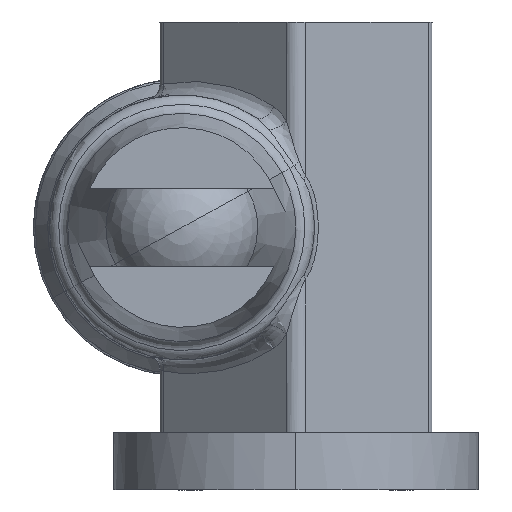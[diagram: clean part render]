
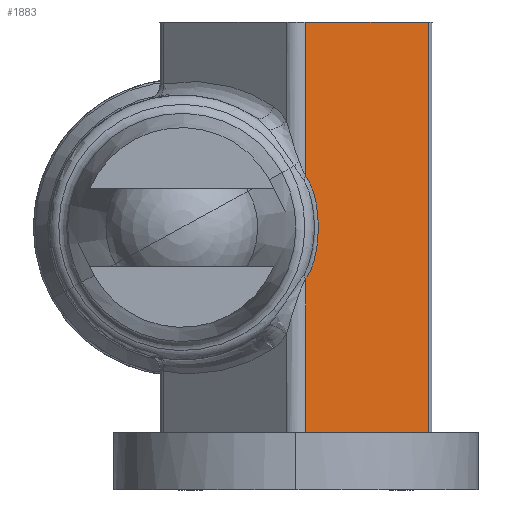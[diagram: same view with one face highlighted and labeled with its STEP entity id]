
A CAD part, left-side view. The second image highlights one B-rep face of the part: STEP entity #1883.
In plain terms, the highlighted planar face has unit normal (-0.707, -0.707, 0).
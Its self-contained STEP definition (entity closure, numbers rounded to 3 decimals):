
#1112=CARTESIAN_POINT('Vertex',(-56.121,-53.991,-45.)) ;
#1115=CARTESIAN_POINT('Line Origine',(-69.556,-40.556,-45.)) ;
#1119=CARTESIAN_POINT('Vertex',(-82.991,-27.121,-45.)) ;
#1749=CARTESIAN_POINT('Line Origine',(-82.991,-27.121,0.)) ;
#1753=CARTESIAN_POINT('Vertex',(-82.991,-27.121,-23.)) ;
#1755=CARTESIAN_POINT('Vertex',(-82.991,-27.121,-11.187)) ;
#1783=CARTESIAN_POINT('Line Origine',(-82.991,-27.121,0.)) ;
#1797=CARTESIAN_POINT('Axis2P3D Location',(-54.,-56.113,0.)) ;
#1803=CARTESIAN_POINT('Control Point',(-82.991,-27.121,11.187)) ;
#1804=CARTESIAN_POINT('Control Point',(-82.829,-27.284,11.001)) ;
#1805=CARTESIAN_POINT('Control Point',(-82.678,-27.435,10.801)) ;
#1806=CARTESIAN_POINT('Control Point',(-82.536,-27.576,10.59)) ;
#1807=CARTESIAN_POINT('Control Point',(-82.247,-27.866,10.113)) ;
#1808=CARTESIAN_POINT('Control Point',(-81.993,-28.12,9.604)) ;
#1809=CARTESIAN_POINT('Control Point',(-81.864,-28.248,9.321)) ;
#1810=CARTESIAN_POINT('Control Point',(-81.593,-28.52,8.669)) ;
#1811=CARTESIAN_POINT('Control Point',(-81.359,-28.754,7.99)) ;
#1812=CARTESIAN_POINT('Control Point',(-81.239,-28.874,7.603)) ;
#1813=CARTESIAN_POINT('Control Point',(-80.997,-29.115,6.746)) ;
#1814=CARTESIAN_POINT('Control Point',(-80.801,-29.312,5.868)) ;
#1815=CARTESIAN_POINT('Control Point',(-80.705,-29.407,5.384)) ;
#1816=CARTESIAN_POINT('Control Point',(-80.423,-29.69,3.735)) ;
#1817=CARTESIAN_POINT('Control Point',(-80.267,-29.846,2.054)) ;
#1818=CARTESIAN_POINT('Control Point',(-80.213,-29.9,0.864)) ;
#1819=CARTESIAN_POINT('Control Point',(-80.214,-29.899,-1.174)) ;
#1820=CARTESIAN_POINT('Control Point',(-80.38,-29.733,-3.198)) ;
#1821=CARTESIAN_POINT('Control Point',(-80.477,-29.635,-4.03)) ;
#1822=CARTESIAN_POINT('Control Point',(-80.666,-29.447,-5.244)) ;
#1823=CARTESIAN_POINT('Control Point',(-80.928,-29.185,-6.431)) ;
#1824=CARTESIAN_POINT('Control Point',(-81.02,-29.093,-6.808)) ;
#1825=CARTESIAN_POINT('Control Point',(-81.211,-28.902,-7.519)) ;
#1826=CARTESIAN_POINT('Control Point',(-81.435,-28.678,-8.213)) ;
#1827=CARTESIAN_POINT('Control Point',(-81.55,-28.562,-8.54)) ;
#1828=CARTESIAN_POINT('Control Point',(-81.783,-28.33,-9.142)) ;
#1829=CARTESIAN_POINT('Control Point',(-82.049,-28.064,-9.719)) ;
#1830=CARTESIAN_POINT('Control Point',(-82.181,-27.931,-9.982)) ;
#1831=CARTESIAN_POINT('Control Point',(-82.411,-27.702,-10.395)) ;
#1832=CARTESIAN_POINT('Control Point',(-82.668,-27.445,-10.779)) ;
#1833=CARTESIAN_POINT('Control Point',(-82.771,-27.342,-10.921)) ;
#1834=CARTESIAN_POINT('Control Point',(-82.878,-27.234,-11.058)) ;
#1835=CARTESIAN_POINT('Control Point',(-82.991,-27.121,-11.187)) ;
#1836=CARTESIAN_POINT('Vertex',(-82.991,-27.121,11.187)) ;
#1839=CARTESIAN_POINT('Line Origine',(-56.121,-53.991,-34.)) ;
#1843=CARTESIAN_POINT('Vertex',(-56.121,-53.991,-23.)) ;
#1846=CARTESIAN_POINT('Line Origine',(-56.121,-53.991,0.)) ;
#1850=CARTESIAN_POINT('Vertex',(-56.121,-53.991,23.)) ;
#1853=CARTESIAN_POINT('Line Origine',(-56.121,-53.991,34.)) ;
#1857=CARTESIAN_POINT('Vertex',(-56.121,-53.991,45.)) ;
#1860=CARTESIAN_POINT('Line Origine',(-69.556,-40.556,45.)) ;
#1864=CARTESIAN_POINT('Vertex',(-82.991,-27.121,45.)) ;
#1867=CARTESIAN_POINT('Line Origine',(-82.991,-27.121,28.093)) ;
#1116=DIRECTION('Vector Direction',(0.707,-0.707,0.)) ;
#1750=DIRECTION('Vector Direction',(0.,0.,1.)) ;
#1784=DIRECTION('Vector Direction',(0.,0.,1.)) ;
#1798=DIRECTION('Axis2P3D Direction',(0.707,0.707,0.)) ;
#1799=DIRECTION('Axis2P3D XDirection',(-0.707,0.707,0.)) ;
#1840=DIRECTION('Vector Direction',(0.,0.,1.)) ;
#1847=DIRECTION('Vector Direction',(0.,0.,1.)) ;
#1854=DIRECTION('Vector Direction',(0.,0.,-1.)) ;
#1861=DIRECTION('Vector Direction',(0.707,-0.707,0.)) ;
#1868=DIRECTION('Vector Direction',(0.,0.,1.)) ;
#1800=AXIS2_PLACEMENT_3D('Plane Axis2P3D',#1797,#1798,#1799) ;
#1873=ORIENTED_EDGE('',*,*,#1838,.T.) ;
#1874=ORIENTED_EDGE('',*,*,#1757,.F.) ;
#1875=ORIENTED_EDGE('',*,*,#1787,.F.) ;
#1876=ORIENTED_EDGE('',*,*,#1121,.F.) ;
#1877=ORIENTED_EDGE('',*,*,#1845,.T.) ;
#1878=ORIENTED_EDGE('',*,*,#1852,.T.) ;
#1879=ORIENTED_EDGE('',*,*,#1859,.F.) ;
#1880=ORIENTED_EDGE('',*,*,#1866,.F.) ;
#1881=ORIENTED_EDGE('',*,*,#1871,.F.) ;
#1117=VECTOR('Line Direction',#1116,1.) ;
#1751=VECTOR('Line Direction',#1750,1.) ;
#1785=VECTOR('Line Direction',#1784,1.) ;
#1841=VECTOR('Line Direction',#1840,1.) ;
#1848=VECTOR('Line Direction',#1847,1.) ;
#1855=VECTOR('Line Direction',#1854,1.) ;
#1862=VECTOR('Line Direction',#1861,1.) ;
#1869=VECTOR('Line Direction',#1868,1.) ;
#1883=ADVANCED_FACE('',(#1882),#1801,.F.) ;
#1802=B_SPLINE_CURVE_WITH_KNOTS('',5,(#1803,#1804,#1805,#1806,#1807,#1808,#1809,#1810,#1811,#1812,#1813,#1814,#1815,#1816,#1817,#1818,#1819,#1820,#1821,#1822,#1823,#1824,#1825,#1826,#1827,#1828,#1829,#1830,#1831,#1832,#1833,#1834,#1835),.UNSPECIFIED.,.F.,.U.,(6,3,3,3,3,3,3,3,3,3,6),(26.335,28.153,30.269,32.955,36.168,43.842,49.271,51.812,54.134,56.17,57.436),.UNSPECIFIED.) ;
#1121=EDGE_CURVE('',#1113,#1120,#1118,.F.) ;
#1757=EDGE_CURVE('',#1754,#1756,#1752,.T.) ;
#1787=EDGE_CURVE('',#1120,#1754,#1786,.T.) ;
#1838=EDGE_CURVE('',#1837,#1756,#1802,.T.) ;
#1845=EDGE_CURVE('',#1113,#1844,#1842,.T.) ;
#1852=EDGE_CURVE('',#1844,#1851,#1849,.T.) ;
#1859=EDGE_CURVE('',#1858,#1851,#1856,.T.) ;
#1866=EDGE_CURVE('',#1865,#1858,#1863,.T.) ;
#1871=EDGE_CURVE('',#1837,#1865,#1870,.T.) ;
#1872=EDGE_LOOP('',(#1873,#1874,#1875,#1876,#1877,#1878,#1879,#1880,#1881)) ;
#1882=FACE_OUTER_BOUND('',#1872,.T.) ;
#1118=LINE('Line',#1115,#1117) ;
#1752=LINE('Line',#1749,#1751) ;
#1786=LINE('Line',#1783,#1785) ;
#1842=LINE('Line',#1839,#1841) ;
#1849=LINE('Line',#1846,#1848) ;
#1856=LINE('Line',#1853,#1855) ;
#1863=LINE('Line',#1860,#1862) ;
#1870=LINE('Line',#1867,#1869) ;
#1801=PLANE('Plane',#1800) ;
#1113=VERTEX_POINT('',#1112) ;
#1120=VERTEX_POINT('',#1119) ;
#1754=VERTEX_POINT('',#1753) ;
#1756=VERTEX_POINT('',#1755) ;
#1837=VERTEX_POINT('',#1836) ;
#1844=VERTEX_POINT('',#1843) ;
#1851=VERTEX_POINT('',#1850) ;
#1858=VERTEX_POINT('',#1857) ;
#1865=VERTEX_POINT('',#1864) ;
